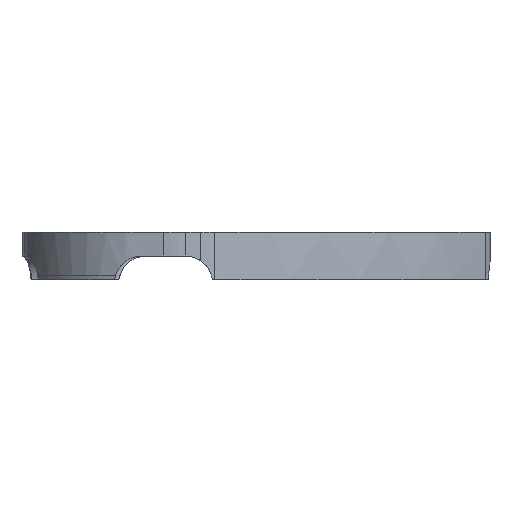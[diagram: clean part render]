
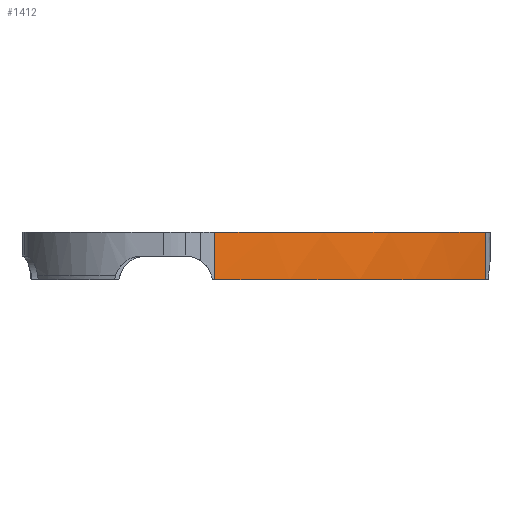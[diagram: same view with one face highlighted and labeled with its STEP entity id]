
A CAD part, left-side view. The second image highlights one B-rep face of the part: STEP entity #1412.
In plain terms, the highlighted free-form (B-spline) face has degree [2, 1] with [3, 3] control points.
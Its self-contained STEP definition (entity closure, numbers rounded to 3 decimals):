
#70=CARTESIAN_POINT('',(112.491,11.984,5.75));
#71=VERTEX_POINT('',#70);
#79=CARTESIAN_POINT('',(112.491,11.984,14.5));
#80=VERTEX_POINT('',#79);
#81=CARTESIAN_POINT('',(112.491,11.984,14.5));
#82=CARTESIAN_POINT('',(112.491,11.984,11.583));
#83=CARTESIAN_POINT('',(112.491,11.984,8.667));
#84=CARTESIAN_POINT('',(112.491,11.984,5.75));
#85=B_SPLINE_CURVE_WITH_KNOTS('',3,(#81,#82,#83,#84),.UNSPECIFIED.,.F.,.F.,(4,4),(0.004,0.013),.UNSPECIFIED.);
#86=EDGE_CURVE('',#80,#71,#85,.T.);
#1360=CARTESIAN_POINT('',(149.849,-37.545,14.5));
#1361=CARTESIAN_POINT('',(149.849,-37.545,6.5));
#1362=CARTESIAN_POINT('',(149.849,-37.545,5.75));
#1363=CARTESIAN_POINT('',(124.691,-19.689,14.5));
#1364=CARTESIAN_POINT('',(124.691,-19.689,6.5));
#1365=CARTESIAN_POINT('',(124.691,-19.689,5.75));
#1366=CARTESIAN_POINT('',(112.491,11.984,14.5));
#1367=CARTESIAN_POINT('',(112.491,11.984,6.5));
#1368=CARTESIAN_POINT('',(112.491,11.984,5.75));
#1369=B_SPLINE_SURFACE_WITH_KNOTS('',2,1,((#1360,#1361,#1362),(#1363,#1364,#1365),(#1366,#1367,#1368)),.UNSPECIFIED.,.F.,.F.,.U.,(3,3),(2,1,2),(0.051,0.952),(0.,1.,1.094),.UNSPECIFIED.);
#1370=ORIENTED_EDGE('',*,*,#86,.T.);
#1371=CARTESIAN_POINT('',(149.849,-37.545,5.75));
#1372=VERTEX_POINT('',#1371);
#1373=CARTESIAN_POINT('',(112.491,11.984,5.75));
#1374=CARTESIAN_POINT('',(114.391,7.052,5.75));
#1375=CARTESIAN_POINT('',(116.567,2.262,5.75));
#1376=CARTESIAN_POINT('',(119.062,-2.365,5.75));
#1377=CARTESIAN_POINT('',(120.309,-4.679,5.75));
#1378=CARTESIAN_POINT('',(121.636,-6.952,5.75));
#1379=CARTESIAN_POINT('',(123.049,-9.18,5.75));
#1380=CARTESIAN_POINT('',(123.402,-9.737,5.75));
#1381=CARTESIAN_POINT('',(123.761,-10.292,5.75));
#1382=CARTESIAN_POINT('',(124.125,-10.843,5.75));
#1383=CARTESIAN_POINT('',(124.489,-11.395,5.75));
#1384=CARTESIAN_POINT('',(124.859,-11.944,5.75));
#1385=CARTESIAN_POINT('',(125.232,-12.487,5.75));
#1386=CARTESIAN_POINT('',(125.979,-13.575,5.75));
#1387=CARTESIAN_POINT('',(126.744,-14.645,5.75));
#1388=CARTESIAN_POINT('',(127.528,-15.697,5.75));
#1389=CARTESIAN_POINT('',(133.793,-24.118,5.75));
#1390=CARTESIAN_POINT('',(141.216,-31.418,5.75));
#1391=CARTESIAN_POINT('',(149.849,-37.545,5.75));
#1392=B_SPLINE_CURVE_WITH_KNOTS('',3,(#1373,#1374,#1375,#1376,#1377,#1378,#1379,#1380,#1381,#1382,#1383,#1384,#1385,#1386,#1387,#1388,#1389,#1390,#1391),.UNSPECIFIED.,.F.,.F.,(4,3,3,3,3,3,4),(0.,0.016,0.024,0.026,0.028,0.032,0.063),.UNSPECIFIED.);
#1393=EDGE_CURVE('',#71,#1372,#1392,.T.);
#1394=ORIENTED_EDGE('',*,*,#1393,.T.);
#1395=CARTESIAN_POINT('',(149.849,-37.545,14.5));
#1396=VERTEX_POINT('',#1395);
#1397=CARTESIAN_POINT('',(149.849,-37.545,5.75));
#1398=CARTESIAN_POINT('',(149.849,-37.545,8.667));
#1399=CARTESIAN_POINT('',(149.849,-37.545,11.583));
#1400=CARTESIAN_POINT('',(149.849,-37.545,14.5));
#1401=B_SPLINE_CURVE_WITH_KNOTS('',3,(#1397,#1398,#1399,#1400),.UNSPECIFIED.,.F.,.F.,(4,4),(0.015,0.024),.UNSPECIFIED.);
#1402=EDGE_CURVE('',#1372,#1396,#1401,.T.);
#1403=ORIENTED_EDGE('',*,*,#1402,.T.);
#1404=CARTESIAN_POINT('',(149.849,-37.545,14.5));
#1405=CARTESIAN_POINT('',(124.691,-19.689,14.5));
#1406=CARTESIAN_POINT('',(112.491,11.984,14.5));
#1407=B_SPLINE_CURVE_WITH_KNOTS('',2,(#1404,#1405,#1406),.UNSPECIFIED.,.F.,.F.,(3,3),(0.051,0.952),.UNSPECIFIED.);
#1408=EDGE_CURVE('',#1396,#80,#1407,.T.);
#1409=ORIENTED_EDGE('',*,*,#1408,.T.);
#1410=EDGE_LOOP('',(#1370,#1394,#1403,#1409));
#1411=FACE_BOUND('',#1410,.T.);
#1412=ADVANCED_FACE('',(#1411),#1369,.T.);
